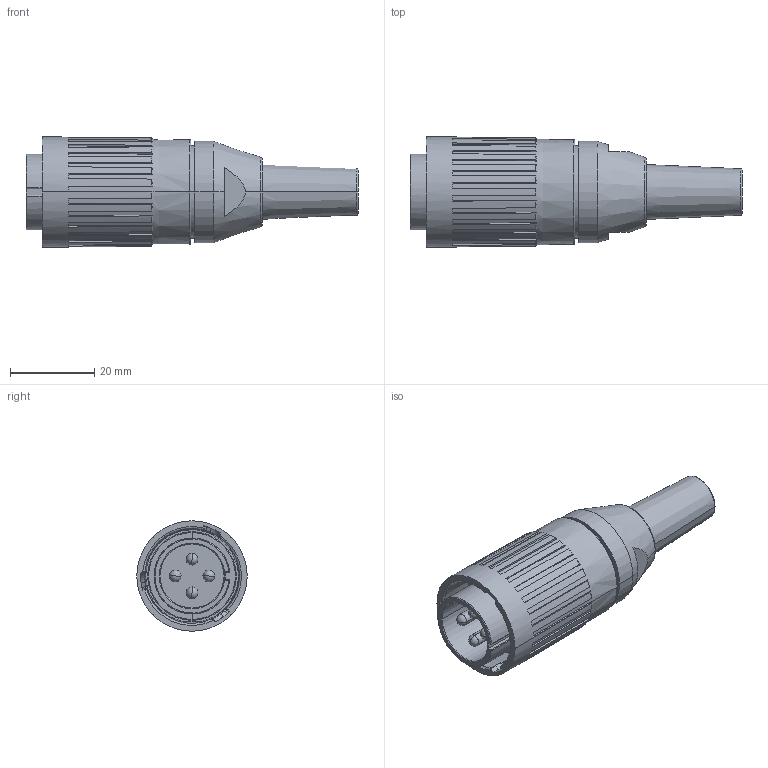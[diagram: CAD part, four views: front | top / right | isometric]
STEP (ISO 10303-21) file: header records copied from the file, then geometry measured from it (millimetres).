
FILE_DESCRIPTION((''),'2;1');
FILE_NAME('WP20-TO','2016-08-10T',('Administrator'),(''),'PRO/ENGINEER BY PARAMETRIC TECHNOLOGY CORPORATION, 2015240','PRO/ENGINEER BY PARAMETRIC TECHNOLOGY CORPORATION, 2015240','');
FILE_SCHEMA(('CONFIG_CONTROL_DESIGN'));
Length unit declared in the file: millimetre
Products named in the file (1): WP20-TO
Bounding box: 78.7 x 26.2 x 26.2 mm (x, y, z)
Volume: 21590.1 mm3; surface area: 13992.9 mm2
Topology: 1 solids, 2 shells, 749 faces, 2149 edges, 1410 vertices
Faces by surface type: plane 582, cylinder 71, cone 45, bspline 22, torus 19, sphere 10
Entity records: 25660 total; most frequent: CARTESIAN_POINT 6059, ORIENTED_EDGE 4278, DIRECTION 3922, EDGE_CURVE 2139, VERTEX_POINT 1409, VECTOR 1386, LINE 1386, AXIS2_PLACEMENT_3D 1268
